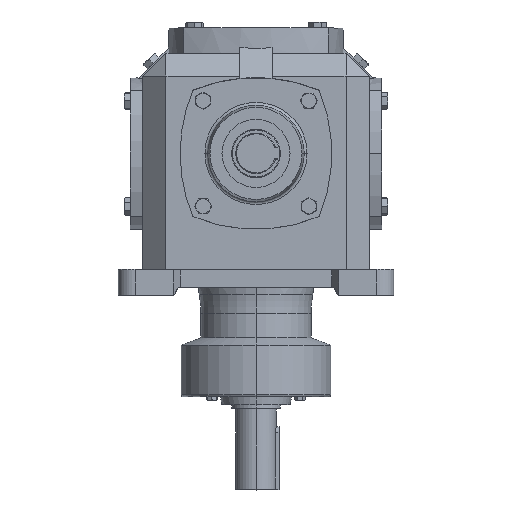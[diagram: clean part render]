
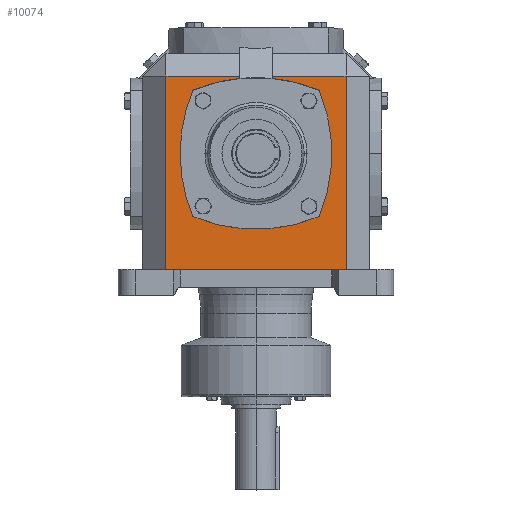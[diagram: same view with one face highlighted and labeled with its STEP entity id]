
A CAD part, top view. The second image highlights one B-rep face of the part: STEP entity #10074.
In plain terms, the highlighted planar face has unit normal (0, 0, 1).
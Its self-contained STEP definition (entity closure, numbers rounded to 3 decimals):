
#414 = ORIENTED_EDGE ( 'NONE', *, *, #1022, .F. ) ;
#540 = DIRECTION ( 'NONE',  ( 1., 0., 0. ) ) ;
#796 = LINE ( 'NONE', #6407, #18568 ) ;
#878 = LINE ( 'NONE', #6315, #10926 ) ;
#1022 = EDGE_CURVE ( 'NONE', #7120, #3603, #11519, .T. ) ;
#1351 = ORIENTED_EDGE ( 'NONE', *, *, #1602, .T. ) ;
#1466 = EDGE_CURVE ( 'NONE', #12625, #7120, #12442, .T. ) ;
#1602 = EDGE_CURVE ( 'NONE', #2655, #3603, #796, .T. ) ;
#1779 = EDGE_CURVE ( 'NONE', #9761, #2655, #10597, .T. ) ;
#1842 = ORIENTED_EDGE ( 'NONE', *, *, #14581, .F. ) ;
#1911 = CARTESIAN_POINT ( 'NONE',  ( -139.5, 95.596, 139.5 ) ) ;
#2079 = VERTEX_POINT ( 'NONE', #7787 ) ;
#2428 = VECTOR ( 'NONE', #8558, 1000. ) ;
#2655 = VERTEX_POINT ( 'NONE', #3806 ) ;
#2801 = CARTESIAN_POINT ( 'NONE',  ( -139.5, 124., 139.5 ) ) ;
#3326 = CARTESIAN_POINT ( 'NONE',  ( 19.883, 92.611, 139.5 ) ) ;
#3509 = FACE_OUTER_BOUND ( 'NONE', #10528, .T. ) ;
#3596 = AXIS2_PLACEMENT_3D ( 'NONE', #13885, #13642, #9408 ) ;
#3603 = VERTEX_POINT ( 'NONE', #3326 ) ;
#3612 = AXIS2_PLACEMENT_3D ( 'NONE', #12206, #10805, #4994 ) ;
#3656 = ORIENTED_EDGE ( 'NONE', *, *, #8214, .T. ) ;
#3661 = LINE ( 'NONE', #16037, #14617 ) ;
#3793 = AXIS2_PLACEMENT_3D ( 'NONE', #16286, #11867, #540 ) ;
#3806 = CARTESIAN_POINT ( 'NONE',  ( 19.883, 95.596, 139.5 ) ) ;
#4781 = AXIS2_PLACEMENT_3D ( 'NONE', #18560, #11314, #14209 ) ;
#4839 = CARTESIAN_POINT ( 'NONE',  ( -93.596, 0., 139.5 ) ) ;
#4907 = ORIENTED_EDGE ( 'NONE', *, *, #5463, .F. ) ;
#4918 = DIRECTION ( 'NONE',  ( 1., 0., 0. ) ) ;
#4950 = ORIENTED_EDGE ( 'NONE', *, *, #6020, .F. ) ;
#4994 = DIRECTION ( 'NONE',  ( 1., 0., 0. ) ) ;
#5001 = CARTESIAN_POINT ( 'NONE',  ( -111.096, 124., 139.5 ) ) ;
#5463 = EDGE_CURVE ( 'NONE', #7515, #2079, #12210, .T. ) ;
#5569 = EDGE_CURVE ( 'NONE', #5594, #11703, #878, .T. ) ;
#5594 = VERTEX_POINT ( 'NONE', #15401 ) ;
#6020 = EDGE_CURVE ( 'NONE', #17812, #7515, #6213, .T. ) ;
#6166 = LINE ( 'NONE', #15881, #2428 ) ;
#6213 = CIRCLE ( 'NONE', #3793, 201.116 ) ;
#6315 = CARTESIAN_POINT ( 'NONE',  ( -139.5, -143., 139.5 ) ) ;
#6407 = CARTESIAN_POINT ( 'NONE',  ( 19.883, 124., 139.5 ) ) ;
#6420 = CARTESIAN_POINT ( 'NONE',  ( -111.096, 95.596, 139.5 ) ) ;
#6488 = ORIENTED_EDGE ( 'NONE', *, *, #12413, .T. ) ;
#6499 = VECTOR ( 'NONE', #11778, 1000. ) ;
#6678 = CARTESIAN_POINT ( 'NONE',  ( 111.096, 95.596, 139.5 ) ) ;
#6845 = VECTOR ( 'NONE', #9035, 1000. ) ;
#7024 = DIRECTION ( 'NONE',  ( -1., 0., 0. ) ) ;
#7120 = VERTEX_POINT ( 'NONE', #15660 ) ;
#7208 = DIRECTION ( 'NONE',  ( 1., 0., 0. ) ) ;
#7223 = CARTESIAN_POINT ( 'NONE',  ( 77.897, -77.897, 139.5 ) ) ;
#7335 = VERTEX_POINT ( 'NONE', #12710 ) ;
#7474 = AXIS2_PLACEMENT_3D ( 'NONE', #2801, #9945, #15958 ) ;
#7498 = ORIENTED_EDGE ( 'NONE', *, *, #5569, .T. ) ;
#7515 = VERTEX_POINT ( 'NONE', #4839 ) ;
#7787 = CARTESIAN_POINT ( 'NONE',  ( -77.897, -77.897, 139.5 ) ) ;
#8214 = EDGE_CURVE ( 'NONE', #7335, #15969, #6166, .T. ) ;
#8558 = DIRECTION ( 'NONE',  ( 0., 1., 0. ) ) ;
#9035 = DIRECTION ( 'NONE',  ( 0., -1., 0. ) ) ;
#9408 = DIRECTION ( 'NONE',  ( 1., 0., 0. ) ) ;
#9761 = VERTEX_POINT ( 'NONE', #6678 ) ;
#9945 = DIRECTION ( 'NONE',  ( 0., 0., -1. ) ) ;
#10074 = ADVANCED_FACE ( 'NONE', ( #3509 ), #11335, .F. ) ;
#10187 = DIRECTION ( 'NONE',  ( 0., 0., 1. ) ) ;
#10265 = CIRCLE ( 'NONE', #3612, 201.116 ) ;
#10528 = EDGE_LOOP ( 'NONE', ( #12567, #3656, #11903, #17547, #7498, #6488, #12593, #1351, #414, #10758, #1842, #4907, #4950 ) ) ;
#10597 = LINE ( 'NONE', #14107, #17642 ) ;
#10682 = AXIS2_PLACEMENT_3D ( 'NONE', #13051, #10187, #7208 ) ;
#10758 = ORIENTED_EDGE ( 'NONE', *, *, #1466, .F. ) ;
#10805 = DIRECTION ( 'NONE',  ( 0., 0., 1. ) ) ;
#10926 = VECTOR ( 'NONE', #4918, 1000. ) ;
#11088 = DIRECTION ( 'NONE',  ( 1., 0., 0. ) ) ;
#11314 = DIRECTION ( 'NONE',  ( 0., 0., 1. ) ) ;
#11335 = PLANE ( 'NONE',  #7474 ) ;
#11519 = CIRCLE ( 'NONE', #3596, 201.116 ) ;
#11703 = VERTEX_POINT ( 'NONE', #13211 ) ;
#11778 = DIRECTION ( 'NONE',  ( -1., 0., 0. ) ) ;
#11867 = DIRECTION ( 'NONE',  ( 0., 0., 1. ) ) ;
#11903 = ORIENTED_EDGE ( 'NONE', *, *, #12757, .T. ) ;
#12044 = DIRECTION ( 'NONE',  ( 0., -1., 0. ) ) ;
#12206 = CARTESIAN_POINT ( 'NONE',  ( 0., 107.52, 139.5 ) ) ;
#12210 = CIRCLE ( 'NONE', #10682, 201.116 ) ;
#12291 = LINE ( 'NONE', #5001, #6845 ) ;
#12413 = EDGE_CURVE ( 'NONE', #11703, #9761, #3661, .T. ) ;
#12442 = CIRCLE ( 'NONE', #4781, 201.116 ) ;
#12450 = DIRECTION ( 'NONE',  ( 0., 0., 1. ) ) ;
#12567 = ORIENTED_EDGE ( 'NONE', *, *, #15460, .F. ) ;
#12593 = ORIENTED_EDGE ( 'NONE', *, *, #1779, .T. ) ;
#12622 = LINE ( 'NONE', #1911, #6499 ) ;
#12625 = VERTEX_POINT ( 'NONE', #7223 ) ;
#12710 = CARTESIAN_POINT ( 'NONE',  ( -19.883, 92.611, 139.5 ) ) ;
#12757 = EDGE_CURVE ( 'NONE', #15969, #17916, #12622, .T. ) ;
#13008 = DIRECTION ( 'NONE',  ( 0., 1., 0. ) ) ;
#13051 = CARTESIAN_POINT ( 'NONE',  ( 107.52, 0., 139.5 ) ) ;
#13211 = CARTESIAN_POINT ( 'NONE',  ( 111.096, -143., 139.5 ) ) ;
#13642 = DIRECTION ( 'NONE',  ( 0., 0., 1. ) ) ;
#13885 = CARTESIAN_POINT ( 'NONE',  ( 0., -107.52, 139.5 ) ) ;
#14107 = CARTESIAN_POINT ( 'NONE',  ( -139.5, 95.596, 139.5 ) ) ;
#14209 = DIRECTION ( 'NONE',  ( 1., 0., 0. ) ) ;
#14581 = EDGE_CURVE ( 'NONE', #2079, #12625, #10265, .T. ) ;
#14617 = VECTOR ( 'NONE', #13008, 1000. ) ;
#15056 = EDGE_CURVE ( 'NONE', #17916, #5594, #12291, .T. ) ;
#15205 = CARTESIAN_POINT ( 'NONE',  ( 0., -107.52, 139.5 ) ) ;
#15401 = CARTESIAN_POINT ( 'NONE',  ( -111.096, -143., 139.5 ) ) ;
#15460 = EDGE_CURVE ( 'NONE', #7335, #17812, #17470, .T. ) ;
#15660 = CARTESIAN_POINT ( 'NONE',  ( 77.897, 77.897, 139.5 ) ) ;
#15881 = CARTESIAN_POINT ( 'NONE',  ( -19.883, 124., 139.5 ) ) ;
#15958 = DIRECTION ( 'NONE',  ( -1., 0., 0. ) ) ;
#15969 = VERTEX_POINT ( 'NONE', #18282 ) ;
#16037 = CARTESIAN_POINT ( 'NONE',  ( 111.096, 124., 139.5 ) ) ;
#16286 = CARTESIAN_POINT ( 'NONE',  ( 107.52, 0., 139.5 ) ) ;
#17013 = AXIS2_PLACEMENT_3D ( 'NONE', #15205, #12450, #11088 ) ;
#17470 = CIRCLE ( 'NONE', #17013, 201.116 ) ;
#17547 = ORIENTED_EDGE ( 'NONE', *, *, #15056, .T. ) ;
#17592 = CARTESIAN_POINT ( 'NONE',  ( -77.897, 77.897, 139.5 ) ) ;
#17642 = VECTOR ( 'NONE', #7024, 1000. ) ;
#17812 = VERTEX_POINT ( 'NONE', #17592 ) ;
#17916 = VERTEX_POINT ( 'NONE', #6420 ) ;
#18282 = CARTESIAN_POINT ( 'NONE',  ( -19.883, 95.596, 139.5 ) ) ;
#18560 = CARTESIAN_POINT ( 'NONE',  ( -107.52, 0., 139.5 ) ) ;
#18568 = VECTOR ( 'NONE', #12044, 1000. ) ;
